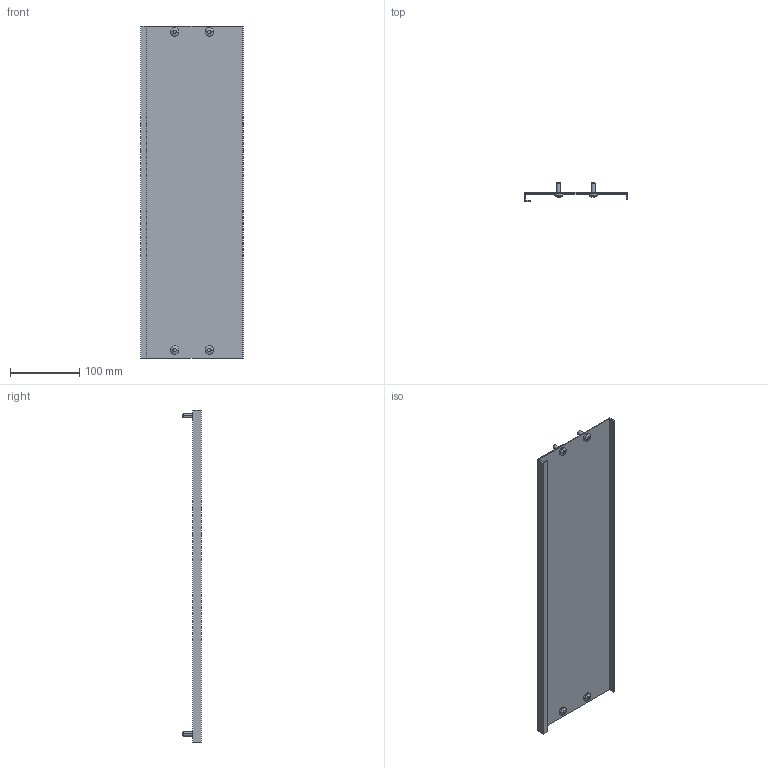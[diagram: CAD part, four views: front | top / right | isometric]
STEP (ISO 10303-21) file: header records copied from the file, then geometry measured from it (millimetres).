
FILE_DESCRIPTION (( 'STEP AP214' ), '1' );
FILE_NAME ('FO-00-PVS-015-060 Ïëàñòðîí ãëóõîé âíóòðåííèé 150õ600.STEP', '2025-09-29T19:27:39', ( '' ), ( '' ), 'SwSTEP 2.0', 'SolidWorks 2023', '' );
FILE_SCHEMA (( 'AUTOMOTIVE_DESIGN' ));
Length unit declared in the file: millimetre
Products named in the file (3): FO-00-PVS-015-060 Пластрон глухой внутренний 150х600; Винт M6x16 15-060 IEK
Assembly tree (3 placements, depth 2):
  FO-00-PVS-015-060 Пластрон глухой внутренний 150х600
    FO-00-PVS-015-060 Пластрон глухой внутренний 150х600
    Винт M6x16 15-060 IEK  x2
Bounding box: 148 x 27 x 479 mm (x, y, z)
Volume: 127863.5 mm3; surface area: 171033.5 mm2
Topology: 5 solids, 5 shells, 150 faces, 392 edges, 256 vertices
Faces by surface type: cylinder 88, plane 42, cone 12, bspline 8
Entity records: 3233 total; most frequent: CARTESIAN_POINT 724, ORIENTED_EDGE 512, DIRECTION 500, EDGE_CURVE 256, AXIS2_PLACEMENT_3D 180, VERTEX_POINT 168, VECTOR 140, LINE 140
